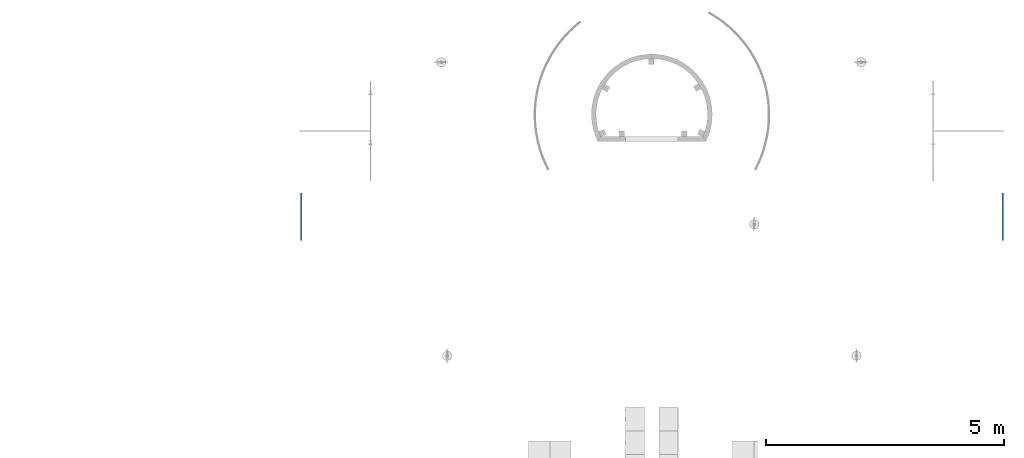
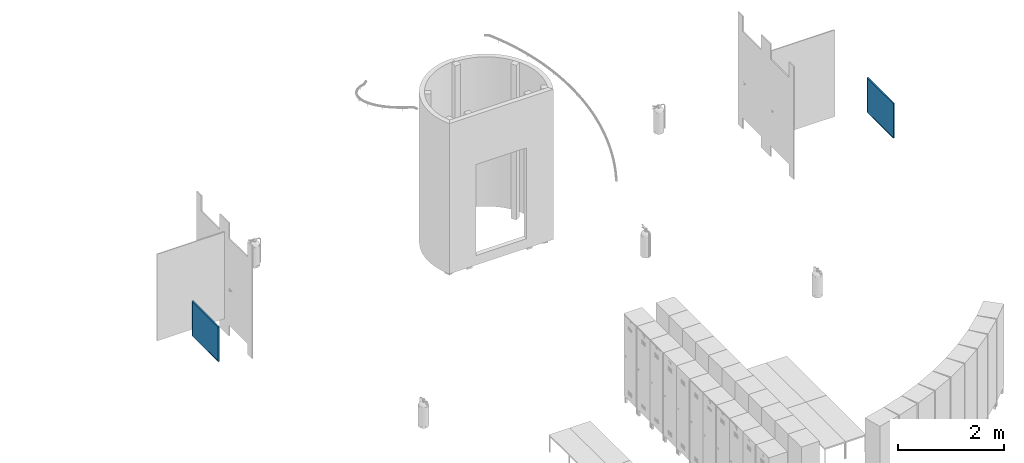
# One storey, part 3 of 7: 2 beams.
"""IFC4 building model written with IfcOpenShell, lengths in millimetres."""

from ifc_helpers import new_model, entity, si_unit, converted_unit, derived_unit, direction, frame, origin_with_axes, place, context, subcontext, project, spatial, polygons, type_object, element, save


model = new_model("IFC4")

# Units and contexts
model_context = context("Model", 3, precision=0.01, world=origin_with_axes(), true_north=direction((0.0, 1.0)))
body_context = subcontext(model_context, "Body", "Model", "MODEL_VIEW")
ifc_project = project(units=[si_unit("LENGTHUNIT", "METRE", prefix="MILLI"), si_unit("AREAUNIT", "SQUARE_METRE"), si_unit("VOLUMEUNIT", "CUBIC_METRE"), converted_unit("PLANEANGLEUNIT", "DEGREE", entity("IfcPlaneAngleMeasure", 0.0174532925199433), si_unit("PLANEANGLEUNIT", "RADIAN"), dimensions=[0, 0, 0, 0, 0, 0, 0]), converted_unit("TIMEUNIT", "Year", entity("IfcTimeMeasure", 31557600.0), si_unit("TIMEUNIT", "SECOND"), dimensions=[0, 0, 1, 0, 0, 0, 0]), si_unit("MASSUNIT", "GRAM", prefix="KILO"), si_unit("THERMODYNAMICTEMPERATUREUNIT", "DEGREE_CELSIUS"), si_unit("LUMINOUSINTENSITYUNIT", "LUMEN"), si_unit("ENERGYUNIT", "JOULE", prefix="MEGA"), derived_unit("THERMALCONDUCTANCEUNIT", [(si_unit("POWERUNIT", "WATT"), 1), (si_unit("LENGTHUNIT", "METRE"), -1), (si_unit("THERMODYNAMICTEMPERATUREUNIT", "KELVIN"), -1)]), derived_unit("SPECIFICHEATCAPACITYUNIT", [(si_unit("ENERGYUNIT", "JOULE"), 1), (si_unit("MASSUNIT", "GRAM", prefix="KILO"), -1), (si_unit("THERMODYNAMICTEMPERATUREUNIT", "KELVIN"), -1)]), derived_unit("MASSDENSITYUNIT", [(si_unit("MASSUNIT", "GRAM", prefix="KILO"), 1), (si_unit("VOLUMEUNIT", "CUBIC_METRE"), -1)])], contexts=[model_context])

# Site, building, storey
site_placement = place(None, origin_with_axes())
site = spatial("IfcSite", under=ifc_project, at=site_placement, Name="Exteriér", CompositionType="ELEMENT")
building_placement = place(site_placement, origin_with_axes())
building = spatial("IfcBuilding", under=site, at=building_placement, Name="Univerzitní lezecké centrum", CompositionType="ELEMENT")
storey_placement = place(building_placement, frame((0.0, 0.0, -3350.0), z_axis=(0.0, 0.0, 1.0), x_axis=(1.0, 0.0, 0.0)))
storey = spatial("IfcBuildingStorey", under=building, at=storey_placement, Name="1.PP", CompositionType="ELEMENT", Elevation=-3350.0)

# Beams
beam_type = type_object("IfcBeamType", Name="Zrcadlo 27", PredefinedType="BEAM")
beam_1_placement = place(storey_placement, frame((-4904.97550961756, 1049.984545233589, 1199.999999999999), z_axis=(0.0, 0.0, 1.0), x_axis=(0.0, 1.0, 0.0)))
element("IfcBeam", 1, at=beam_1_placement, inside=storey, type_object=beam_type, Name="Obj0061", PredefinedType="BEAM", context=body_context, shape_type="Tessellation", body=[
    polygons([(0.0, 30.0, 0.0), (10.0, 30.0, 10.0), (10.0, 0.0, 10.0), (0.0, 0.0, 0.0), (0.0, 30.00000000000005, 800.0), (10.0, 30.00000000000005, 790.0), (10.0, 0.0, 790.0), (0.0, 0.0, 800.0)], [[[1, 2, 3, 4]], [[1, 5, 6, 2]], [[2, 6, 7, 3]], [[4, 3, 7, 8]], [[5, 1, 4, 8]], [[6, 5, 8, 7]]], closed=True),
    polygons([(1000.0, 30.0, 0.0), (1000.0, 30.00000000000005, 800.0), (1000.0, 0.0, 800.0), (1000.0, 0.0, 0.0), (990.0, 30.0, 10.0), (990.0, 30.00000000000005, 790.0), (990.0, 0.0, 790.0), (990.0, 0.0, 10.0)], [[[1, 2, 3, 4]], [[1, 5, 6, 2]], [[2, 6, 7, 3]], [[4, 3, 7, 8]], [[5, 1, 4, 8]], [[6, 5, 8, 7]]], closed=True),
    polygons([(0.0, 30.0, 0.0), (1000.0, 30.0, 0.0), (1000.0, 0.0, 0.0), (0.0, 0.0, 0.0), (10.0, 30.0, 10.0), (990.0, 30.0, 10.0), (990.0, 0.0, 10.0), (10.0, 0.0, 10.0)], [[[1, 2, 3, 4]], [[1, 5, 6, 2]], [[2, 6, 7, 3]], [[4, 3, 7, 8]], [[5, 1, 4, 8]], [[6, 5, 8, 7]]], closed=True),
    polygons([(0.0, 30.00000000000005, 800.0), (10.0, 30.00000000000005, 790.0), (10.0, 0.0, 790.0), (0.0, 0.0, 800.0), (1000.0, 30.00000000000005, 800.0), (990.0, 30.00000000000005, 790.0), (990.0, 0.0, 790.0), (1000.0, 0.0, 800.0)], [[[1, 2, 3, 4]], [[1, 5, 6, 2]], [[2, 6, 7, 3]], [[4, 3, 7, 8]], [[5, 1, 4, 8]], [[6, 5, 8, 7]]], closed=True),
    polygons([(10.0, 25.0, 10.0), (990.0, 25.0, 10.0), (990.0, 4.999999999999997, 10.0), (10.0, 4.999999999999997, 10.0), (10.0, 25.00000000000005, 790.0), (990.0, 25.00000000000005, 790.0), (990.0, 5.000000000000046, 790.0), (10.0, 5.000000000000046, 790.0)], [[[1, 2, 3, 4]], [[1, 5, 6, 2]], [[2, 6, 7, 3]], [[4, 3, 7, 8]], [[5, 1, 4, 8]], [[6, 5, 8, 7]]], closed=True),
])
beam_2_placement = place(storey_placement, frame((9804.527341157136, 1049.564204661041, 1199.999999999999), z_axis=(0.0, 0.0, 1.0), x_axis=(-5.715224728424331e-05, -0.9999999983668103, 0.0)))
element("IfcBeam", 2, at=beam_2_placement, inside=storey, type_object=beam_type, Name="Obj0061", PredefinedType="BEAM", context=body_context, shape_type="Tessellation", body=[
    polygons([(0.0, 30.0, 0.0), (0.0, 0.0, 0.0), (-10.0, 0.0, 10.0), (-10.0, 30.0, 10.0), (0.0, 30.00000000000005, 800.0), (0.0, 0.0, 800.0), (-10.0, 0.0, 790.0), (-10.0, 30.00000000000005, 790.0)], [[[1, 2, 3, 4]], [[5, 6, 2, 1]], [[2, 6, 7, 3]], [[4, 3, 7, 8]], [[1, 4, 8, 5]], [[8, 7, 6, 5]]], closed=True),
    polygons([(-1000.0, 30.0, 0.0), (-1000.0, 0.0, 0.0), (-1000.0, 0.0, 800.0), (-1000.0, 30.00000000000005, 800.0), (-990.0, 30.0, 10.0), (-990.0, 0.0, 10.0), (-990.0, 0.0, 790.0), (-990.0, 30.00000000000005, 790.0)], [[[1, 2, 3, 4]], [[5, 6, 2, 1]], [[2, 6, 7, 3]], [[4, 3, 7, 8]], [[1, 4, 8, 5]], [[8, 7, 6, 5]]], closed=True),
    polygons([(0.0, 30.0, 0.0), (0.0, 0.0, 0.0), (-1000.0, 0.0, 0.0), (-1000.0, 30.0, 0.0), (-10.0, 30.0, 10.0), (-10.0, 0.0, 10.0), (-990.0, 0.0, 10.0), (-990.0, 30.0, 10.0)], [[[1, 2, 3, 4]], [[5, 6, 2, 1]], [[2, 6, 7, 3]], [[4, 3, 7, 8]], [[1, 4, 8, 5]], [[8, 7, 6, 5]]], closed=True),
    polygons([(0.0, 30.00000000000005, 800.0), (0.0, 0.0, 800.0), (-10.0, 0.0, 790.0), (-10.0, 30.00000000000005, 790.0), (-1000.0, 30.00000000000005, 800.0), (-1000.0, 0.0, 800.0), (-990.0, 0.0, 790.0), (-990.0, 30.00000000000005, 790.0)], [[[1, 2, 3, 4]], [[5, 6, 2, 1]], [[2, 6, 7, 3]], [[4, 3, 7, 8]], [[1, 4, 8, 5]], [[8, 7, 6, 5]]], closed=True),
    polygons([(-10.0, 25.0, 10.0), (-10.0, 4.999999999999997, 10.0), (-990.0, 4.999999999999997, 10.0), (-990.0, 25.0, 10.0), (-10.0, 25.00000000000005, 790.0), (-10.0, 5.000000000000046, 790.0), (-990.0, 5.000000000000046, 790.0), (-990.0, 25.00000000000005, 790.0)], [[[1, 2, 3, 4]], [[5, 6, 2, 1]], [[2, 6, 7, 3]], [[4, 3, 7, 8]], [[1, 4, 8, 5]], [[8, 7, 6, 5]]], closed=True),
])

save(model, "model.ifc")
